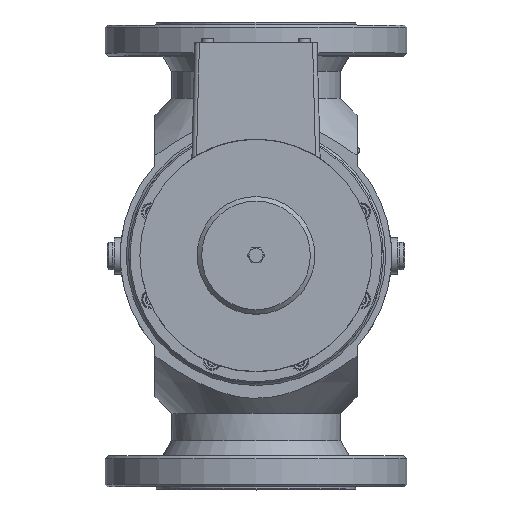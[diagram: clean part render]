
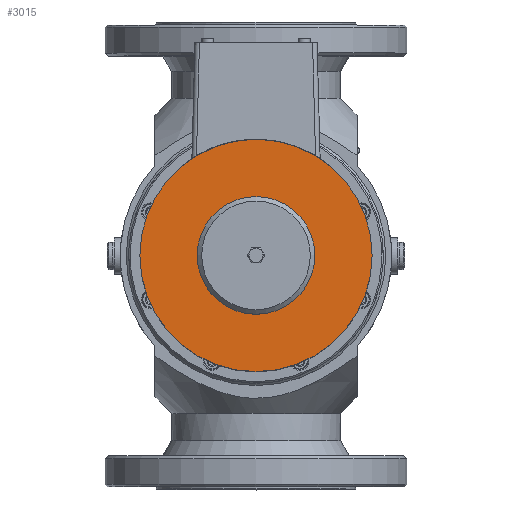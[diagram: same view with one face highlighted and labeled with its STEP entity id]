
A CAD part, top view. The second image highlights one B-rep face of the part: STEP entity #3015.
In plain terms, the highlighted planar face has unit normal (0, 0, 1).
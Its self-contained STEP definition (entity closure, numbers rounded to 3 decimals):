
#3015 = ADVANCED_FACE( '', ( #4952, #4953 ), #4954, .F. );
#4952 = FACE_BOUND( '', #7904, .T. );
#4953 = FACE_OUTER_BOUND( '', #7905, .T. );
#4954 = PLANE( '', #7906 );
#7904 = EDGE_LOOP( '', ( #12057 ) );
#7905 = EDGE_LOOP( '', ( #12058 ) );
#7906 = AXIS2_PLACEMENT_3D( '', #12059, #12060, #12061 );
#12057 = ORIENTED_EDGE( '', *, *, #13092, .T. );
#12058 = ORIENTED_EDGE( '', *, *, #13080, .F. );
#12059 = CARTESIAN_POINT( '', ( 0., 0., 120. ) );
#12060 = DIRECTION( '', ( 0., 0., -1. ) );
#12061 = DIRECTION( '', ( -1., 0., 0. ) );
#13080 = EDGE_CURVE( '', #14926, #14926, #14927, .T. );
#13092 = EDGE_CURVE( '', #14946, #14946, #14947, .T. );
#14926 = VERTEX_POINT( '', #18959 );
#14927 = CIRCLE( '', #18960, 77. );
#14946 = VERTEX_POINT( '', #19040 );
#14947 = CIRCLE( '', #19041, 26. );
#18959 = CARTESIAN_POINT( '', ( 77., 0., 120. ) );
#18960 = AXIS2_PLACEMENT_3D( '', #21114, #21115, #21116 );
#19040 = CARTESIAN_POINT( '', ( 26., 0., 120. ) );
#19041 = AXIS2_PLACEMENT_3D( '', #21128, #21129, #21130 );
#21114 = CARTESIAN_POINT( '', ( 0., 0., 120. ) );
#21115 = DIRECTION( '', ( 0., 0., -1. ) );
#21116 = DIRECTION( '', ( 1., 0., 0. ) );
#21128 = CARTESIAN_POINT( '', ( 0., 0., 120. ) );
#21129 = DIRECTION( '', ( 0., 0., -1. ) );
#21130 = DIRECTION( '', ( 1., 0., 0. ) );
